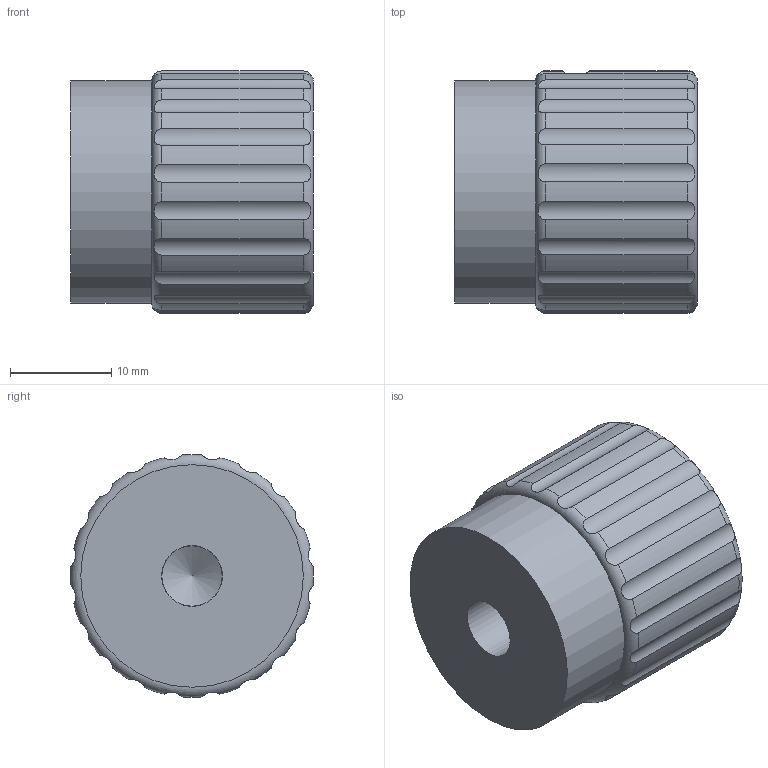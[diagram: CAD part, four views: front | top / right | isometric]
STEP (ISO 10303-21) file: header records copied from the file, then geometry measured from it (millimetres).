
FILE_DESCRIPTION( ( 'STEP AP203' ), '1' );
FILE_NAME( 'C:/Temp/Ganter_Step_05_03_2020/data/1_4/gn_436_1/gn_436_1_b/Stainless Steel-Control knob GN 436.1-24-B6-B-MT.stp', '2020-03-05T10:48:44', ( 'License CC BY-ND 4.0' ), ( 'CADENAS' ), ' ', 'PARTsolutions', ' ' );
FILE_SCHEMA( ( 'CONFIG_CONTROL_DESIGN' ) );
Length unit declared in the file: millimetre
Products named in the file (1): _Stainless Steel-Control knob GN 436.1-24-B6-B-MT
Bounding box: 24 x 24 x 24 mm (x, y, z)
Volume: 9514.5 mm3; surface area: 3055.8 mm2
Topology: 1 solids, 1 shells, 63 faces, 173 edges, 115 vertices
Faces by surface type: cylinder 46, plane 12, cone 3, torus 2
Full cylindrical faces by diameter (mm): 3.242 x2, 5.96 x1, 6 x1, 22 x1
Entity records: 2632 total; most frequent: CARTESIAN_POINT 1106, ORIENTED_EDGE 312, DIRECTION 290, EDGE_CURVE 156, AXIS2_PLACEMENT_3D 115, VERTEX_POINT 109, EDGE_LOOP 76, FACE_OUTER_BOUND 70
